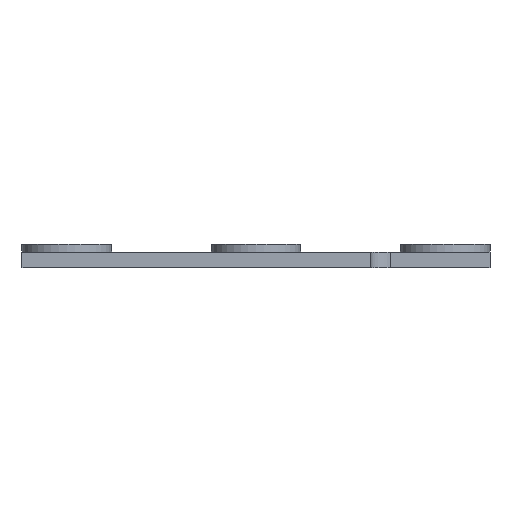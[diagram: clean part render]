
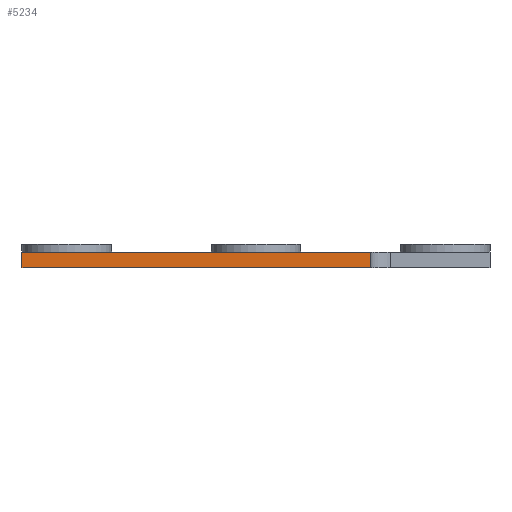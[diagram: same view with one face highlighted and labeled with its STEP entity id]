
A CAD part, front view. The second image highlights one B-rep face of the part: STEP entity #5234.
In plain terms, the highlighted planar face has unit normal (0, -1, 0).
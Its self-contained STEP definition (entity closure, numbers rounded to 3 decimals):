
#5214=AXIS2_PLACEMENT_3D('Plane Axis2P3D',#5211,#5212,#5213) ;
#210=CARTESIAN_POINT('Vertex',(-4.5,-23.6,0.)) ;
#213=CARTESIAN_POINT('Line Origine',(13.,-23.6,0.)) ;
#217=CARTESIAN_POINT('Vertex',(30.5,-23.6,0.)) ;
#4655=CARTESIAN_POINT('Vertex',(30.5,-23.6,-1.6)) ;
#4665=CARTESIAN_POINT('Line Origine',(30.5,-23.6,-0.8)) ;
#5211=CARTESIAN_POINT('Axis2P3D Location',(30.5,-23.6,0.)) ;
#5216=CARTESIAN_POINT('Line Origine',(13.,-23.6,-1.6)) ;
#5220=CARTESIAN_POINT('Vertex',(-4.5,-23.6,-1.6)) ;
#5223=CARTESIAN_POINT('Line Origine',(-4.5,-23.6,-0.8)) ;
#214=DIRECTION('Vector Direction',(-1.,0.,0.)) ;
#4666=DIRECTION('Vector Direction',(0.,0.,-1.)) ;
#5212=DIRECTION('Axis2P3D Direction',(-0.,-1.,-0.)) ;
#5213=DIRECTION('Axis2P3D XDirection',(-1.,0.,0.)) ;
#5217=DIRECTION('Vector Direction',(-1.,0.,0.)) ;
#5224=DIRECTION('Vector Direction',(0.,0.,-1.)) ;
#215=VECTOR('Line Direction',#214,1.) ;
#4667=VECTOR('Line Direction',#4666,1.) ;
#5218=VECTOR('Line Direction',#5217,1.) ;
#5225=VECTOR('Line Direction',#5224,1.) ;
#5229=ORIENTED_EDGE('',*,*,#5222,.T.) ;
#5230=ORIENTED_EDGE('',*,*,#4669,.F.) ;
#5231=ORIENTED_EDGE('',*,*,#219,.F.) ;
#5232=ORIENTED_EDGE('',*,*,#5227,.T.) ;
#5234=ADVANCED_FACE('Strada-IP-24-PCB_and_HB-IP-24-PCB',(#5233),#5215,.T.) ;
#219=EDGE_CURVE('',#211,#218,#216,.F.) ;
#4669=EDGE_CURVE('',#218,#4656,#4668,.T.) ;
#5222=EDGE_CURVE('',#5221,#4656,#5219,.F.) ;
#5227=EDGE_CURVE('',#211,#5221,#5226,.T.) ;
#5228=EDGE_LOOP('',(#5229,#5230,#5231,#5232)) ;
#5233=FACE_OUTER_BOUND('',#5228,.T.) ;
#216=LINE('Line',#213,#215) ;
#4668=LINE('Line',#4665,#4667) ;
#5219=LINE('Line',#5216,#5218) ;
#5226=LINE('Line',#5223,#5225) ;
#5215=PLANE('',#5214) ;
#211=VERTEX_POINT('',#210) ;
#218=VERTEX_POINT('',#217) ;
#4656=VERTEX_POINT('',#4655) ;
#5221=VERTEX_POINT('',#5220) ;
